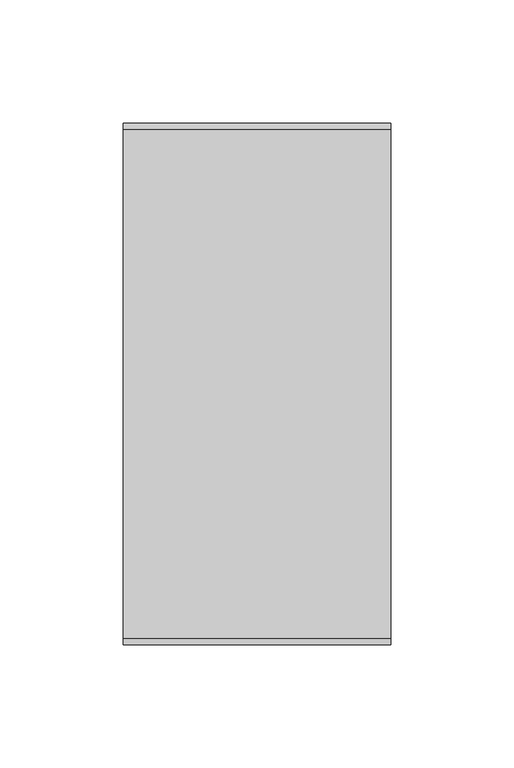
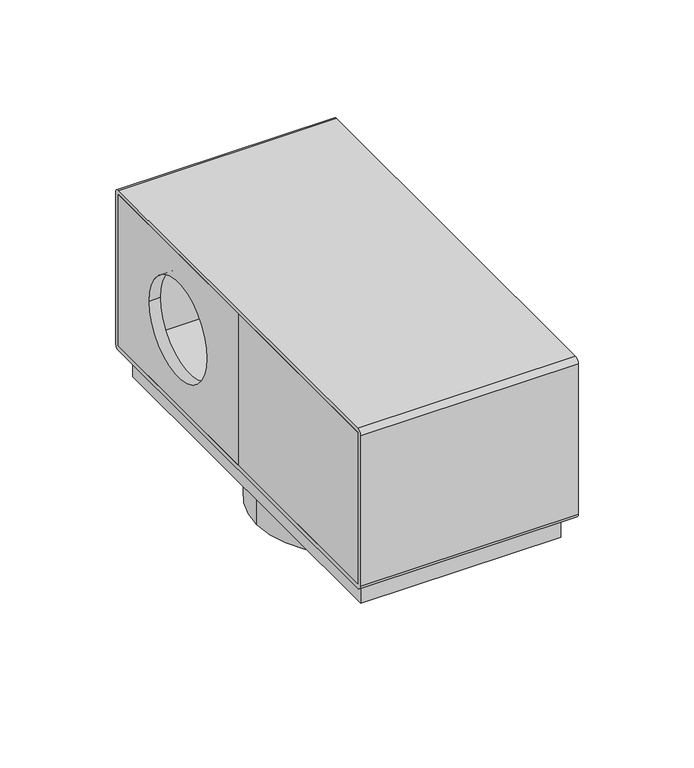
"""IFC4 building model written with IfcOpenShell, lengths in millimetres: proxy geometry, Electrical_Installation_Hager_VE-EE_Pedestal-box-4 : GB pedestal box 4 inst. fields iron gray."""

from ifc_helpers import new_model, si_unit, point, frame, frame_2d, origin, origin_with_axes, origin_2d, place, context, project, spatial, polyline, circle_curve, trimmed, segment, composite_curve, outline, extrude, source, transform, mapped, element, save


def electrical_fixtures_d3cc217f(model_context):
    return source(origin(), model_context, "Body", "SweptSolid", [
        extrude(outline(polyline([(1.25, -0.764292), (1.25, 0.764292), (48.9, 0.764292), (48.9, -0.764292), (1.25, -0.764292)])), frame((0.0, 0.0, 14.8), z_axis=(0.0, 0.0, 1.0), x_axis=(1.0, 0.0, 0.0)), (0.0, 0.0, 1.0), 79.9),
        extrude(outline(polyline([(-1.25, 0.764292), (-1.25, -0.764292), (-48.9, -0.764292), (-48.9, 0.764292), (-1.25, 0.764292)])), frame((0.0, 0.0, 14.8), z_axis=(0.0, 0.0, 1.0), x_axis=(1.0, 0.0, 0.0)), (0.0, 0.0, 1.0), 79.9),
        extrude(outline(polyline([(0.0, 94.7), (103.7, 94.7), (103.7, 14.8), (0.0, 14.8), (0.0, 94.7)]), holes=[composite_curve([segment(trimmed(circle_curve(frame_2d((51.85, 54.75)), 25.0), [point((76.85, 54.75))], [point((26.85, 54.75))], True, "CARTESIAN"), True, "CONTINUOUS"), segment(trimmed(circle_curve(frame_2d((51.85, 54.75)), 25.0), [point((26.85, 54.75))], [point((76.85, 54.75))], True, "CARTESIAN"), True, "CONTINUOUS")], self_intersect=False)]), frame((-54.4, 0.0, 0.0), z_axis=(1.0, 0.0, 0.0), x_axis=(0.0, 1.0, 0.0)), (0.0, 0.0, 1.0), 5.5),
        extrude(outline(polyline([(-54.4, -103.7), (-54.4, 0.0), (-48.9, 0.0), (-48.9, -103.7), (-54.4, -103.7)])), frame((0.0, 0.0, 14.8), z_axis=(0.0, 0.0, 1.0), x_axis=(1.0, 0.0, 0.0)), (0.0, 0.0, 1.0), 79.9),
        extrude(outline(polyline([(0.0, 94.7), (103.7, 94.7), (103.7, 14.8), (0.0, 14.8), (0.0, 94.7)]), holes=[composite_curve([segment(trimmed(circle_curve(frame_2d((51.85, 54.75)), 25.0), [point((76.85, 54.75))], [point((26.85, 54.75))], True, "CARTESIAN"), True, "CONTINUOUS"), segment(trimmed(circle_curve(frame_2d((51.85, 54.75)), 25.0), [point((26.85, 54.75))], [point((76.85, 54.75))], True, "CARTESIAN"), True, "CONTINUOUS")], self_intersect=False)]), frame((48.9, 0.0, 0.0), z_axis=(1.0, 0.0, 0.0), x_axis=(0.0, 1.0, 0.0)), (0.0, 0.0, 1.0), 5.5),
        extrude(outline(composite_curve([segment(polyline([(-103.5, 97.0), (103.5, 97.0)]), True, "CONTINUOUS"), segment(trimmed(circle_curve(frame_2d((103.5, 94.5)), 2.5), [point((103.5, 97.0))], [point((106.0, 94.5))], False, "CARTESIAN"), True, "CONTINUOUS"), segment(polyline([(106.0, 94.5), (106.0, 15.0)]), True, "CONTINUOUS"), segment(trimmed(circle_curve(frame_2d((103.5, 15.0)), 2.5), [point((106.0, 15.0))], [point((103.5, 12.5))], False, "CARTESIAN"), True, "CONTINUOUS"), segment(polyline([(103.5, 12.5), (-103.5, 12.5)]), True, "CONTINUOUS"), segment(trimmed(circle_curve(frame_2d((-103.5, 15.0)), 2.5), [point((-103.5, 12.5))], [point((-106.0, 15.0))], False, "CARTESIAN"), True, "CONTINUOUS"), segment(polyline([(-106.0, 15.0), (-106.0, 94.5)]), True, "CONTINUOUS"), segment(trimmed(circle_curve(frame_2d((-103.5, 94.5)), 2.5), [point((-106.0, 94.5))], [point((-103.5, 97.0))], False, "CARTESIAN"), True, "CONTINUOUS")], self_intersect=False), holes=[polyline([(-103.7, 94.7), (-103.7, 14.8), (103.7, 14.8), (103.7, 94.7), (-103.7, 94.7)])]), frame((-54.4, 0.0, 0.0), z_axis=(1.0, 0.0, 0.0), x_axis=(0.0, 1.0, 0.0)), (0.0, 0.0, 1.0), 108.8),
        extrude(outline(polyline([(0.0, 94.7), (0.0, 14.8), (-103.7, 14.8), (-103.7, 94.7), (0.0, 94.7)]), holes=[polyline([(-76.85, 79.75), (-76.85, 29.75), (-26.85, 29.75), (-26.85, 79.75), (-76.85, 79.75)])]), frame((48.9, 0.0, 0.0), z_axis=(1.0, 0.0, 0.0), x_axis=(0.0, 1.0, 0.0)), (0.0, 0.0, 1.0), 5.5),
        extrude(outline(composite_curve([segment(trimmed(circle_curve(origin_2d(), 45.0), [point((-45.0, 0.0))], [point((45.0, 0.0))], False, "CARTESIAN"), True, "CONTINUOUS"), segment(trimmed(circle_curve(origin_2d(), 45.0), [point((45.0, 0.0))], [point((-45.0, 0.0))], False, "CARTESIAN"), True, "CONTINUOUS")], self_intersect=False), holes=[composite_curve([segment(trimmed(circle_curve(origin_2d(), 27.5), [point((-27.5, 0.0))], [point((27.5, 0.0))], True, "CARTESIAN"), True, "CONTINUOUS"), segment(trimmed(circle_curve(origin_2d(), 27.5), [point((27.5, 0.0))], [point((-27.5, 0.0))], True, "CARTESIAN"), True, "CONTINUOUS")], self_intersect=False)]), frame((0.0, 0.0, -20.0), z_axis=(0.0, 0.0, 1.0), x_axis=(1.0, 0.0, 0.0)), (0.0, 0.0, 1.0), 20.0),
        extrude(outline(polyline([(1.25, 103.7), (1.25, -103.7), (-1.25, -103.7), (-1.25, 103.7), (1.25, 103.7)])), frame((0.0, 0.0, 14.8), z_axis=(0.0, 0.0, 1.0), x_axis=(1.0, 0.0, 0.0)), (0.0, 0.0, 1.0), 79.9),
        extrude(outline(polyline([(50.0, -98.7), (-50.0, -98.7), (-50.0, 98.7), (50.0, 98.7), (50.0, -98.7)]), holes=[composite_curve([segment(trimmed(circle_curve(frame_2d((-28.5912964, 0.7333267)), 5.0), [point((-24.4955362, 3.6012089))], [point((-25.7234143, -3.3624335))], False, "CARTESIAN"), True, "CONTINUOUS"), segment(polyline([(-25.7234143, -3.3624335), (-34.1678222, -9.2752716)]), True, "CONTINUOUS"), segment(trimmed(circle_curve(frame_2d((-31.29994, -13.3710318)), 5.0), [point((-34.1678222, -9.2752716))], [point((-35.8979613, -15.335262))], True, "CARTESIAN"), True, "CONTINUOUS"), segment(trimmed(circle_curve(origin_2d(), 39.0363149), [point((-35.8979613, -15.335262))], [point((-26.6882584, -28.4880808))], True, "CARTESIAN"), True, "CONTINUOUS"), segment(trimmed(circle_curve(frame_2d((-23.2698699, -24.8391604)), 5.0), [point((-26.6882584, -28.4880808))], [point((-20.4019877, -28.9349206))], True, "CARTESIAN"), True, "CONTINUOUS"), segment(polyline([(-20.4019877, -28.9349206), (-11.9575798, -23.0220826)]), True, "CONTINUOUS"), segment(trimmed(circle_curve(frame_2d((-9.0896976, -27.1178428)), 5.0), [point((-11.9575798, -23.0220826))], [point((-4.9939374, -24.2499606))], False, "CARTESIAN"), True, "CONTINUOUS"), segment(polyline([(-4.9939374, -24.2499606), (3.2975997, -36.0915028)]), True, "CONTINUOUS"), segment(trimmed(circle_curve(frame_2d((7.3933599, -33.2236206)), 5.0), [point((3.2975997, -36.0915028))], [point((8.4794587, -38.1042342))], True, "CARTESIAN"), True, "CONTINUOUS"), segment(trimmed(circle_curve(origin_2d(), 39.0363149), [point((8.4794587, -38.1042342))], [point((32.906122, -21.0005004))], True, "CARTESIAN"), True, "CONTINUOUS"), segment(trimmed(circle_curve(frame_2d((28.6913131, -18.3106332)), 5.0), [point((32.906122, -21.0005004))], [point((32.7870733, -15.442751))], True, "CARTESIAN"), True, "CONTINUOUS"), segment(polyline([(32.7870733, -15.442751), (24.4955362, -3.6012089)]), True, "CONTINUOUS"), segment(trimmed(circle_curve(frame_2d((28.5912964, -0.7333267)), 5.0), [point((24.4955362, -3.6012089))], [point((25.7234143, 3.3624335))], False, "CARTESIAN"), True, "CONTINUOUS"), segment(polyline([(25.7234143, 3.3624335), (34.1678222, 9.2752716)]), True, "CONTINUOUS"), segment(trimmed(circle_curve(frame_2d((31.29994, 13.3710318)), 5.0), [point((34.1678222, 9.2752716))], [point((35.8979613, 15.335262))], True, "CARTESIAN"), True, "CONTINUOUS"), segment(trimmed(circle_curve(origin_2d(), 39.0363149), [point((35.8979613, 15.335262))], [point((26.6882584, 28.4880808))], True, "CARTESIAN"), True, "CONTINUOUS"), segment(trimmed(circle_curve(frame_2d((23.2698699, 24.8391604)), 5.0), [point((26.6882584, 28.4880808))], [point((20.4019877, 28.9349206))], True, "CARTESIAN"), True, "CONTINUOUS"), segment(polyline([(20.4019877, 28.9349206), (11.9575798, 23.0220826)]), True, "CONTINUOUS"), segment(trimmed(circle_curve(frame_2d((9.0896976, 27.1178428)), 5.0), [point((11.9575798, 23.0220826))], [point((4.9939374, 24.2499606))], False, "CARTESIAN"), True, "CONTINUOUS"), segment(polyline([(4.9939374, 24.2499606), (-3.2975997, 36.0915028)]), True, "CONTINUOUS"), segment(trimmed(circle_curve(frame_2d((-7.3933599, 33.2236206)), 5.0), [point((-3.2975997, 36.0915028))], [point((-8.4794587, 38.1042342))], True, "CARTESIAN"), True, "CONTINUOUS"), segment(trimmed(circle_curve(origin_2d(), 39.0363149), [point((-8.4794587, 38.1042342))], [point((-32.906122, 21.0005004))], True, "CARTESIAN"), True, "CONTINUOUS"), segment(trimmed(circle_curve(frame_2d((-28.6913131, 18.3106332)), 5.0), [point((-32.906122, 21.0005004))], [point((-32.7870733, 15.442751))], True, "CARTESIAN"), True, "CONTINUOUS"), segment(polyline([(-32.7870733, 15.442751), (-24.4955362, 3.6012089)]), True, "CONTINUOUS")], self_intersect=False)]), origin_with_axes(), (0.0, 0.0, 1.0), 12.5),
    ])


if __name__ == "__main__":
    model = new_model("IFC4")
    model_context = context("Model", 3, world=origin())
    ifc_project = project(units=[si_unit("LENGTHUNIT", "METRE", prefix="MILLI")], contexts=[model_context])
    site = spatial("IfcSite", under=ifc_project)
    building = spatial("IfcBuilding", under=site)
    placement = place(None, origin())
    electrical_fixtures_shape = electrical_fixtures_d3cc217f(model_context)
    element("IfcBuildingElementProxy", 1, Name="Electrical_Installation_Hager_VE-EE_Pedestal-box-4 : GB pedestal box 4 inst. fields iron gray", ObjectType="Electrical_Installation_Hager_VE-EE_Pedestal-box-4 : GB pedestal box 4 inst. fields iron gray", at=placement, inside=building, context=model_context, shape_type="MappedRepresentation", body=[
        mapped(electrical_fixtures_shape, transform((0.0, 0.0, 0.0), x_axis=(1.0, 0.0, 0.0), y_axis=(0.0, 1.0, 0.0), z_axis=(0.0, 0.0, 1.0))),
    ])
    save(model, "model.ifc")
